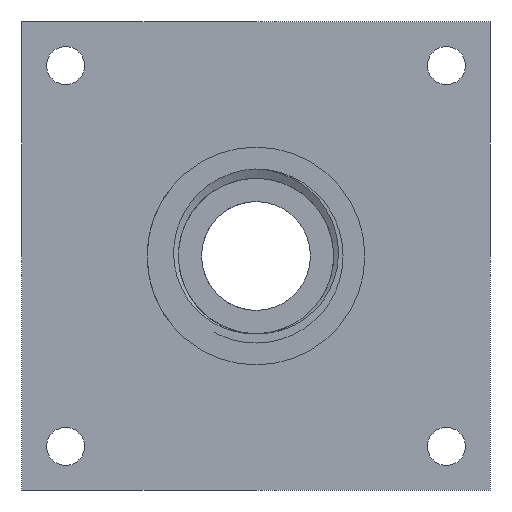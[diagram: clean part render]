
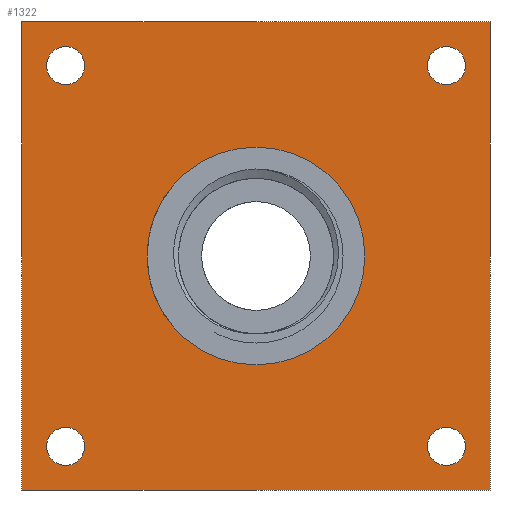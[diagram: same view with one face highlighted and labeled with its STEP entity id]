
A CAD part, left-side view. The second image highlights one B-rep face of the part: STEP entity #1322.
In plain terms, the highlighted planar face has unit normal (-1, 0, 0).
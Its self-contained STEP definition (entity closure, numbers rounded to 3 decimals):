
#21 = EDGE_LOOP ( 'NONE', ( #458, #2882 ) ) ;
#30 = VERTEX_POINT ( 'NONE', #491 ) ;
#56 = FACE_BOUND ( 'NONE', #333, .T. ) ;
#66 = CARTESIAN_POINT ( 'NONE',  ( 282., 35., -38.5 ) ) ;
#86 = CARTESIAN_POINT ( 'NONE',  ( 282., 35., -31.5 ) ) ;
#170 = CARTESIAN_POINT ( 'NONE',  ( 282., -43., -43. ) ) ;
#178 = CARTESIAN_POINT ( 'NONE',  ( 282., 35., 31.5 ) ) ;
#182 = LINE ( 'NONE', #2071, #217 ) ;
#190 = EDGE_CURVE ( 'NONE', #710, #669, #2588, .T. ) ;
#201 = CARTESIAN_POINT ( 'NONE',  ( 282., -43., -43. ) ) ;
#206 = DIRECTION ( 'NONE',  ( 0., 1., 0. ) ) ;
#215 = CIRCLE ( 'NONE', #1258, 3.5 ) ;
#217 = VECTOR ( 'NONE', #594, 1000. ) ;
#253 = AXIS2_PLACEMENT_3D ( 'NONE', #1598, #394, #1557 ) ;
#277 = CARTESIAN_POINT ( 'NONE',  ( 282., -35., 35. ) ) ;
#290 = ORIENTED_EDGE ( 'NONE', *, *, #1562, .F. ) ;
#310 = DIRECTION ( 'NONE',  ( 0., 0., -1. ) ) ;
#333 = EDGE_LOOP ( 'NONE', ( #1582, #521 ) ) ;
#394 = DIRECTION ( 'NONE',  ( -1., 0., 0. ) ) ;
#407 = CIRCLE ( 'NONE', #2942, 3.5 ) ;
#458 = ORIENTED_EDGE ( 'NONE', *, *, #1374, .T. ) ;
#475 = VERTEX_POINT ( 'NONE', #86 ) ;
#490 = DIRECTION ( 'NONE',  ( 1., 0., 0. ) ) ;
#491 = CARTESIAN_POINT ( 'NONE',  ( 282., -35., -38.5 ) ) ;
#521 = ORIENTED_EDGE ( 'NONE', *, *, #2611, .T. ) ;
#594 = DIRECTION ( 'NONE',  ( 0., 0., 1. ) ) ;
#623 = AXIS2_PLACEMENT_3D ( 'NONE', #277, #2437, #1964 ) ;
#669 = VERTEX_POINT ( 'NONE', #2060 ) ;
#687 = EDGE_CURVE ( 'NONE', #2267, #710, #182, .T. ) ;
#690 = CIRCLE ( 'NONE', #1765, 3.5 ) ;
#697 = EDGE_CURVE ( 'NONE', #1391, #1586, #2351, .T. ) ;
#710 = VERTEX_POINT ( 'NONE', #1299 ) ;
#744 = DIRECTION ( 'NONE',  ( 1., 0., 0. ) ) ;
#767 = DIRECTION ( 'NONE',  ( 1., 0., 0. ) ) ;
#789 = CARTESIAN_POINT ( 'NONE',  ( 282., 35., 35. ) ) ;
#816 = AXIS2_PLACEMENT_3D ( 'NONE', #1638, #1631, #2394 ) ;
#964 = EDGE_LOOP ( 'NONE', ( #3036, #2192 ) ) ;
#972 = CIRCLE ( 'NONE', #623, 3.5 ) ;
#975 = ORIENTED_EDGE ( 'NONE', *, *, #1684, .T. ) ;
#1006 = CIRCLE ( 'NONE', #2537, 3.5 ) ;
#1030 = DIRECTION ( 'NONE',  ( 0., 0., -1. ) ) ;
#1031 = EDGE_CURVE ( 'NONE', #2735, #1660, #1587, .T. ) ;
#1090 = FACE_BOUND ( 'NONE', #3046, .T. ) ;
#1123 = LINE ( 'NONE', #2371, #1380 ) ;
#1133 = VECTOR ( 'NONE', #2978, 1000. ) ;
#1156 = CIRCLE ( 'NONE', #2313, 20. ) ;
#1163 = VERTEX_POINT ( 'NONE', #2937 ) ;
#1179 = EDGE_CURVE ( 'NONE', #1163, #2000, #972, .T. ) ;
#1190 = CARTESIAN_POINT ( 'NONE',  ( 282., -35., -35. ) ) ;
#1224 = VECTOR ( 'NONE', #1398, 1000. ) ;
#1258 = AXIS2_PLACEMENT_3D ( 'NONE', #1978, #767, #2478 ) ;
#1299 = CARTESIAN_POINT ( 'NONE',  ( 282., 43., 43. ) ) ;
#1322 = ADVANCED_FACE ( 'NONE', ( #1419, #56, #3134, #1090, #1653, #1966 ), #2286, .F. ) ;
#1330 = DIRECTION ( 'NONE',  ( 1., 0., 0. ) ) ;
#1374 = EDGE_CURVE ( 'NONE', #30, #3002, #1006, .T. ) ;
#1380 = VECTOR ( 'NONE', #206, 1000. ) ;
#1391 = VERTEX_POINT ( 'NONE', #1990 ) ;
#1398 = DIRECTION ( 'NONE',  ( 0., 0., -1. ) ) ;
#1412 = DIRECTION ( 'NONE',  ( 0., 0., -1. ) ) ;
#1414 = CARTESIAN_POINT ( 'NONE',  ( 282., 35., -35. ) ) ;
#1419 = FACE_BOUND ( 'NONE', #2188, .T. ) ;
#1425 = VERTEX_POINT ( 'NONE', #201 ) ;
#1427 = AXIS2_PLACEMENT_3D ( 'NONE', #789, #2488, #2514 ) ;
#1460 = ORIENTED_EDGE ( 'NONE', *, *, #687, .F. ) ;
#1471 = CARTESIAN_POINT ( 'NONE',  ( 282., -35., -35. ) ) ;
#1495 = DIRECTION ( 'NONE',  ( 0., 0., -1. ) ) ;
#1502 = EDGE_LOOP ( 'NONE', ( #2095, #1460, #1963, #1828 ) ) ;
#1522 = CARTESIAN_POINT ( 'NONE',  ( 282., 0., 0. ) ) ;
#1552 = DIRECTION ( 'NONE',  ( -1., 0., 0. ) ) ;
#1557 = DIRECTION ( 'NONE',  ( 0., 0., -1. ) ) ;
#1562 = EDGE_CURVE ( 'NONE', #1586, #1391, #1156, .T. ) ;
#1582 = ORIENTED_EDGE ( 'NONE', *, *, #1179, .T. ) ;
#1586 = VERTEX_POINT ( 'NONE', #2232 ) ;
#1587 = CIRCLE ( 'NONE', #1427, 3.5 ) ;
#1591 = VERTEX_POINT ( 'NONE', #66 ) ;
#1598 = CARTESIAN_POINT ( 'NONE',  ( 282., 0., 0. ) ) ;
#1631 = DIRECTION ( 'NONE',  ( 1., 0., 0. ) ) ;
#1638 = CARTESIAN_POINT ( 'NONE',  ( 282., -35., 35. ) ) ;
#1653 = FACE_BOUND ( 'NONE', #964, .T. ) ;
#1660 = VERTEX_POINT ( 'NONE', #2728 ) ;
#1684 = EDGE_CURVE ( 'NONE', #1591, #475, #215, .T. ) ;
#1723 = DIRECTION ( 'NONE',  ( 1., 0., 0. ) ) ;
#1765 = AXIS2_PLACEMENT_3D ( 'NONE', #1414, #490, #2431 ) ;
#1828 = ORIENTED_EDGE ( 'NONE', *, *, #2824, .F. ) ;
#1852 = CARTESIAN_POINT ( 'NONE',  ( 282., -35., -31.5 ) ) ;
#1862 = EDGE_CURVE ( 'NONE', #475, #1591, #690, .T. ) ;
#1954 = EDGE_CURVE ( 'NONE', #1660, #2735, #2803, .T. ) ;
#1963 = ORIENTED_EDGE ( 'NONE', *, *, #2724, .F. ) ;
#1964 = DIRECTION ( 'NONE',  ( 0., 0., 1. ) ) ;
#1966 = FACE_OUTER_BOUND ( 'NONE', #1502, .T. ) ;
#1969 = CARTESIAN_POINT ( 'NONE',  ( 282., 43., -43. ) ) ;
#1978 = CARTESIAN_POINT ( 'NONE',  ( 282., 35., -35. ) ) ;
#1985 = AXIS2_PLACEMENT_3D ( 'NONE', #2238, #744, #1495 ) ;
#1990 = CARTESIAN_POINT ( 'NONE',  ( 282., 0., -20. ) ) ;
#2000 = VERTEX_POINT ( 'NONE', #2719 ) ;
#2016 = DIRECTION ( 'NONE',  ( 0., 0., -1. ) ) ;
#2060 = CARTESIAN_POINT ( 'NONE',  ( 282., -43., 43. ) ) ;
#2071 = CARTESIAN_POINT ( 'NONE',  ( 282., 43., -43. ) ) ;
#2095 = ORIENTED_EDGE ( 'NONE', *, *, #190, .F. ) ;
#2119 = ORIENTED_EDGE ( 'NONE', *, *, #697, .F. ) ;
#2180 = CIRCLE ( 'NONE', #816, 3.5 ) ;
#2188 = EDGE_LOOP ( 'NONE', ( #2119, #290 ) ) ;
#2192 = ORIENTED_EDGE ( 'NONE', *, *, #1954, .T. ) ;
#2232 = CARTESIAN_POINT ( 'NONE',  ( 282., 0., 20. ) ) ;
#2238 = CARTESIAN_POINT ( 'NONE',  ( 282., 35., 35. ) ) ;
#2267 = VERTEX_POINT ( 'NONE', #1969 ) ;
#2286 = PLANE ( 'NONE',  #2700 ) ;
#2297 = LINE ( 'NONE', #170, #1224 ) ;
#2313 = AXIS2_PLACEMENT_3D ( 'NONE', #3013, #1552, #310 ) ;
#2351 = CIRCLE ( 'NONE', #253, 20. ) ;
#2371 = CARTESIAN_POINT ( 'NONE',  ( 282., -43., -43. ) ) ;
#2389 = DIRECTION ( 'NONE',  ( 1., 0., 0. ) ) ;
#2394 = DIRECTION ( 'NONE',  ( 0., 0., 1. ) ) ;
#2431 = DIRECTION ( 'NONE',  ( 0., 0., 1. ) ) ;
#2437 = DIRECTION ( 'NONE',  ( 1., 0., 0. ) ) ;
#2478 = DIRECTION ( 'NONE',  ( 0., 0., 1. ) ) ;
#2488 = DIRECTION ( 'NONE',  ( 1., 0., 0. ) ) ;
#2514 = DIRECTION ( 'NONE',  ( 0., 0., -1. ) ) ;
#2537 = AXIS2_PLACEMENT_3D ( 'NONE', #1471, #1723, #1030 ) ;
#2588 = LINE ( 'NONE', #2720, #1133 ) ;
#2611 = EDGE_CURVE ( 'NONE', #2000, #1163, #2180, .T. ) ;
#2700 = AXIS2_PLACEMENT_3D ( 'NONE', #1522, #1330, #2016 ) ;
#2719 = CARTESIAN_POINT ( 'NONE',  ( 282., -35., 38.5 ) ) ;
#2720 = CARTESIAN_POINT ( 'NONE',  ( 282., -43., 43. ) ) ;
#2724 = EDGE_CURVE ( 'NONE', #1425, #2267, #1123, .T. ) ;
#2728 = CARTESIAN_POINT ( 'NONE',  ( 282., 35., 38.5 ) ) ;
#2735 = VERTEX_POINT ( 'NONE', #178 ) ;
#2736 = ORIENTED_EDGE ( 'NONE', *, *, #1862, .T. ) ;
#2803 = CIRCLE ( 'NONE', #1985, 3.5 ) ;
#2824 = EDGE_CURVE ( 'NONE', #669, #1425, #2297, .T. ) ;
#2882 = ORIENTED_EDGE ( 'NONE', *, *, #3064, .T. ) ;
#2937 = CARTESIAN_POINT ( 'NONE',  ( 282., -35., 31.5 ) ) ;
#2942 = AXIS2_PLACEMENT_3D ( 'NONE', #1190, #2389, #1412 ) ;
#2978 = DIRECTION ( 'NONE',  ( 0., -1., 0. ) ) ;
#3002 = VERTEX_POINT ( 'NONE', #1852 ) ;
#3013 = CARTESIAN_POINT ( 'NONE',  ( 282., 0., 0. ) ) ;
#3036 = ORIENTED_EDGE ( 'NONE', *, *, #1031, .T. ) ;
#3046 = EDGE_LOOP ( 'NONE', ( #975, #2736 ) ) ;
#3064 = EDGE_CURVE ( 'NONE', #3002, #30, #407, .T. ) ;
#3134 = FACE_BOUND ( 'NONE', #21, .T. ) ;
